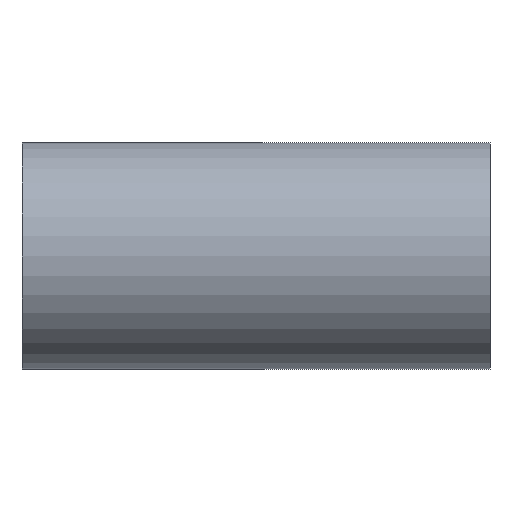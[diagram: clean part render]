
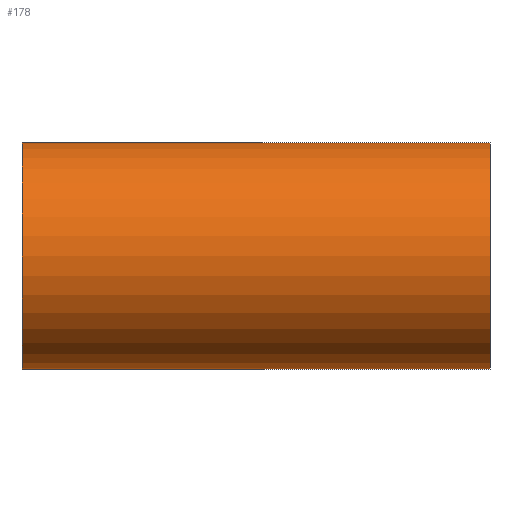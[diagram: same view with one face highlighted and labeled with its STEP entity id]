
A CAD part, front view. The second image highlights one B-rep face of the part: STEP entity #178.
In plain terms, the highlighted cylindrical face has radius 25.4 mm (diameter 50.8 mm), a partial arc.
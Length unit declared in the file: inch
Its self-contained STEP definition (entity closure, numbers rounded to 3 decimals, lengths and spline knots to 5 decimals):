
#2 = ORIENTED_EDGE ( 'NONE', *, *, #6, .F. ) ;
#4 = EDGE_CURVE ( 'NONE', #58, #85, #259, .T. ) ;
#6 = EDGE_CURVE ( 'NONE', #289, #10, #251, .T. ) ;
#10 = VERTEX_POINT ( 'NONE', #130 ) ;
#24 = ORIENTED_EDGE ( 'NONE', *, *, #427, .F. ) ;
#29 = LINE ( 'NONE', #49, #426 ) ;
#34 = VECTOR ( 'NONE', #293, 39.37008 ) ;
#39 = CARTESIAN_POINT ( 'NONE',  ( -2.062, 0., 0. ) ) ;
#46 = DIRECTION ( 'NONE',  ( 0., 0., -1. ) ) ;
#49 = CARTESIAN_POINT ( 'NONE',  ( -2.062, 0., 1. ) ) ;
#51 = DIRECTION ( 'NONE',  ( 1., 0., 0. ) ) ;
#58 = VERTEX_POINT ( 'NONE', #131 ) ;
#71 = DIRECTION ( 'NONE',  ( 1., 0., 0. ) ) ;
#77 = VECTOR ( 'NONE', #241, 39.37008 ) ;
#80 = CARTESIAN_POINT ( 'NONE',  ( -2.062, 0., 1. ) ) ;
#81 = LINE ( 'NONE', #80, #34 ) ;
#84 = LINE ( 'NONE', #194, #77 ) ;
#85 = VERTEX_POINT ( 'NONE', #279 ) ;
#90 = DIRECTION ( 'NONE',  ( 0., 0., -1. ) ) ;
#93 = DIRECTION ( 'NONE',  ( 1., 0., 0. ) ) ;
#103 = CYLINDRICAL_SURFACE ( 'NONE', #345, 1. ) ;
#104 = CARTESIAN_POINT ( 'NONE',  ( -2.062, 0., -1. ) ) ;
#122 = VECTOR ( 'NONE', #161, 39.37008 ) ;
#127 = CARTESIAN_POINT ( 'NONE',  ( 2.062, 0., 0. ) ) ;
#130 = CARTESIAN_POINT ( 'NONE',  ( 2.062, 0., -1. ) ) ;
#131 = CARTESIAN_POINT ( 'NONE',  ( -2.062, 0., 1. ) ) ;
#134 = DIRECTION ( 'NONE',  ( 0., 0., -1. ) ) ;
#149 = LINE ( 'NONE', #104, #122 ) ;
#161 = DIRECTION ( 'NONE',  ( 1., 0., 0. ) ) ;
#169 = CARTESIAN_POINT ( 'NONE',  ( 0., 0., 1. ) ) ;
#178 = ADVANCED_FACE ( 'NONE', ( #184 ), #103, .T. ) ;
#184 = FACE_OUTER_BOUND ( 'NONE', #419, .T. ) ;
#194 = CARTESIAN_POINT ( 'NONE',  ( -2.062, 0., -1. ) ) ;
#200 = ORIENTED_EDGE ( 'NONE', *, *, #421, .F. ) ;
#202 = CARTESIAN_POINT ( 'NONE',  ( -2.062, 0., 0. ) ) ;
#217 = VERTEX_POINT ( 'NONE', #169 ) ;
#236 = EDGE_CURVE ( 'NONE', #85, #365, #84, .T. ) ;
#241 = DIRECTION ( 'NONE',  ( 1., 0., 0. ) ) ;
#247 = CARTESIAN_POINT ( 'NONE',  ( 0., 0., -1. ) ) ;
#251 = CIRCLE ( 'NONE', #367, 1. ) ;
#259 = CIRCLE ( 'NONE', #369, 1. ) ;
#266 = EDGE_CURVE ( 'NONE', #365, #10, #149, .T. ) ;
#273 = ORIENTED_EDGE ( 'NONE', *, *, #236, .T. ) ;
#279 = CARTESIAN_POINT ( 'NONE',  ( -2.062, 0., -1. ) ) ;
#289 = VERTEX_POINT ( 'NONE', #385 ) ;
#293 = DIRECTION ( 'NONE',  ( 1., 0., 0. ) ) ;
#345 = AXIS2_PLACEMENT_3D ( 'NONE', #39, #71, #46 ) ;
#365 = VERTEX_POINT ( 'NONE', #247 ) ;
#367 = AXIS2_PLACEMENT_3D ( 'NONE', #127, #93, #90 ) ;
#369 = AXIS2_PLACEMENT_3D ( 'NONE', #202, #437, #134 ) ;
#385 = CARTESIAN_POINT ( 'NONE',  ( 2.062, 0., 1. ) ) ;
#403 = ORIENTED_EDGE ( 'NONE', *, *, #4, .T. ) ;
#419 = EDGE_LOOP ( 'NONE', ( #200, #403, #273, #442, #2, #24 ) ) ;
#421 = EDGE_CURVE ( 'NONE', #58, #217, #81, .T. ) ;
#426 = VECTOR ( 'NONE', #51, 39.37008 ) ;
#427 = EDGE_CURVE ( 'NONE', #217, #289, #29, .T. ) ;
#437 = DIRECTION ( 'NONE',  ( 1., 0., 0. ) ) ;
#442 = ORIENTED_EDGE ( 'NONE', *, *, #266, .T. ) ;
